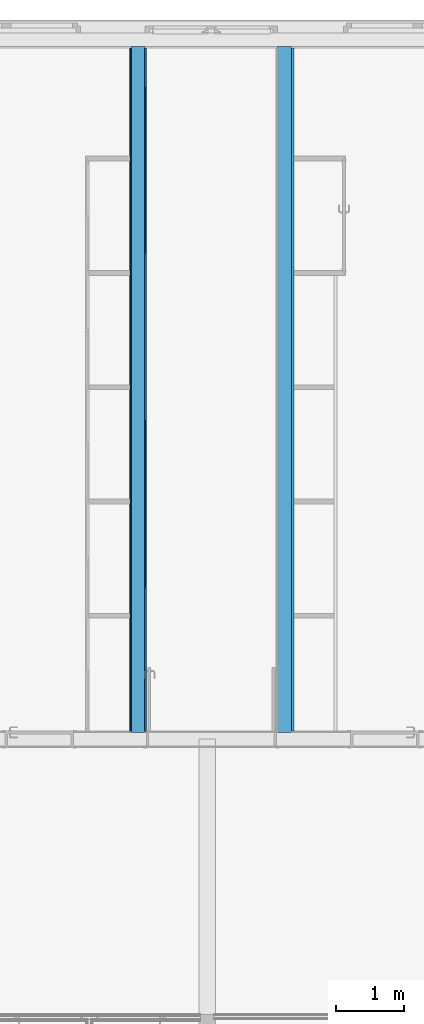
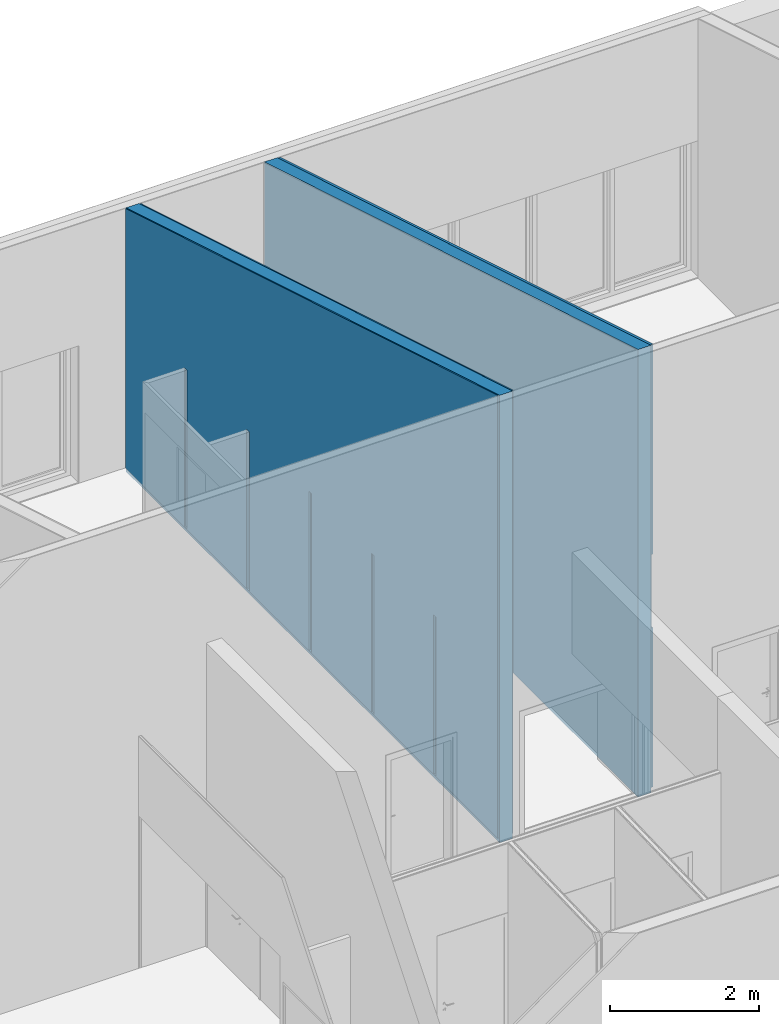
# One storey, part 33 of 34: 5 building element parts, 2 elements without a shape of their own.
"""IFC2X3 building model written with IfcOpenShell, lengths in metres."""

from ifc_helpers import new_model, entity, si_unit, converted_unit, derived_unit, money_unit, direction, frame, origin_with_axes, place, context, subcontext, project, spatial, polyline, outline, extrude, boolean, faceted_brep, material, type_object, element, aggregate, save


model = new_model("IFC2X3")

# Units and contexts
model_context = context("Model", 3, precision=1e-05, world=origin_with_axes(), true_north=direction((0.0, 1.0)))
body_context = subcontext(model_context, "Body", "Model", "MODEL_VIEW")
ifc_project = project(units=[si_unit("LENGTHUNIT", "METRE"), si_unit("AREAUNIT", "SQUARE_METRE"), si_unit("VOLUMEUNIT", "CUBIC_METRE"), converted_unit("PLANEANGLEUNIT", "DEGREE", entity("IfcPlaneAngleMeasure", 0.0174532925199), si_unit("PLANEANGLEUNIT", "RADIAN"), dimensions=[0, 0, 0, 0, 0, 0, 0]), money_unit("CHF"), converted_unit("TIMEUNIT", "Year", entity("IfcTimeMeasure", 31556926.0), si_unit("TIMEUNIT", "SECOND"), dimensions=[0, 0, 1, 0, 0, 0, 0]), si_unit("MASSUNIT", "GRAM", prefix="KILO"), si_unit("THERMODYNAMICTEMPERATUREUNIT", "DEGREE_CELSIUS"), si_unit("LUMINOUSINTENSITYUNIT", "LUMEN"), si_unit("ENERGYUNIT", "JOULE", prefix="MEGA"), derived_unit("THERMALCONDUCTANCEUNIT", [(si_unit("POWERUNIT", "WATT"), 1), (si_unit("LENGTHUNIT", "METRE"), -1), (si_unit("THERMODYNAMICTEMPERATUREUNIT", "KELVIN"), -1)]), derived_unit("SPECIFICHEATCAPACITYUNIT", [(si_unit("ENERGYUNIT", "JOULE"), 1), (si_unit("MASSUNIT", "GRAM", prefix="KILO"), -1), (si_unit("THERMODYNAMICTEMPERATUREUNIT", "KELVIN"), -1)]), derived_unit("MASSDENSITYUNIT", [(si_unit("MASSUNIT", "GRAM", prefix="KILO"), 1), (si_unit("VOLUMEUNIT", "CUBIC_METRE"), -1)])], contexts=[model_context])

# Site, building, storey
site_placement = place(None, origin_with_axes())
site = spatial("IfcSite", under=ifc_project, at=site_placement, Name="Site", CompositionType="ELEMENT")
building_placement = place(site_placement, origin_with_axes())
building = spatial("IfcBuilding", under=site, at=building_placement, Name="Bâtiment", CompositionType="ELEMENT")
storey_placement = place(building_placement, origin_with_axes())
storey = spatial("IfcBuildingStorey", under=building, at=storey_placement, Name="Rez-de-chaussée", CompositionType="ELEMENT", Elevation=0.0)

# Wall, building element parts
wall_type_1 = type_object("IfcWallType", Name="Mur 20cm + enduit 2cm 240", PredefinedType="NOTDEFINED")
wall_1_placement = place(storey_placement, frame((23.3394697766, 25.2201256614, -0.21), z_axis=(0.0, 0.0, 1.0), x_axis=(0.0, -1.0, 0.0)))
wall_1 = element("IfcWall", 1, at=wall_1_placement, inside=storey, type_object=wall_type_1, Name="MUR_EXT-007")
ifc_material_1 = material(Name="Finition int - Enduit plâtre")
building_element_part_1_placement = place(wall_1_placement, origin_with_axes())
building_element_part_1 = element("IfcBuildingElementPart", 2, at=building_element_part_1_placement, material=ifc_material_1, Name="Finition int - Enduit plâtre", context=body_context, shape_type="CSG", body=[
    boolean("DIFFERENCE", boolean("DIFFERENCE", boolean("DIFFERENCE", boolean("DIFFERENCE", boolean("DIFFERENCE", boolean("DIFFERENCE", boolean("DIFFERENCE", boolean("DIFFERENCE", extrude(outline(polyline([(-0.29, 0.1), (10.3401256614, 0.1), (10.3401256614, 0.12), (-0.29, 0.12), (-0.29, 0.1)])), origin_with_axes(), (0.0, 0.0, 1.0), 7.64), faceted_brep([(-0.29, 0.1, 7.64), (-0.29, 0.1, 0.0), (10.3401256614, 0.1, 0.0), (10.3401256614, 0.1, 7.64), (10.1001256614, 0.1, 0.2), (0.12, 0.1, 0.2), (0.12, 0.1, 4.45417566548), (10.1001256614, 0.1, 7.44821336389), (-0.29, 0.12, 7.64), (-0.29, 0.12, 0.0), (10.3401256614, 0.12, 0.0), (10.3401256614, 0.12, 7.64), (10.1001256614, 0.119999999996, 0.2), (0.12, 0.119999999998, 0.2), (0.12, 0.119999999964, 4.45417566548), (10.1001256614, 0.119999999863, 7.44821336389)], [[[0, 1, 2, 3], [4, 5, 6, 7]], [[8, 9, 1, 0]], [[2, 1, 9, 10]], [[3, 2, 10, 11]], [[8, 0, 3, 11]], [[12, 13, 5, 4]], [[13, 14, 6, 5]], [[14, 15, 7, 6]], [[15, 12, 4, 7]], [[11, 10, 9, 8], [12, 15, 14, 13]]])), faceted_brep([(-0.29, -0.1, 7.64), (-0.29, -0.1, 0.0), (10.3401256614, -0.1, 0.0), (10.3401256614, -0.1, 7.64), (10.1201256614, -0.1, 0.13), (0.1, -0.1, 0.13), (0.1, -0.1, 4.44817566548), (0.12, -0.1, 4.45417566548), (10.1001256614, -0.1, 7.44821336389), (10.1201256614, -0.1, 7.45421336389), (-0.29, 0.1, 7.64), (-0.29, 0.1, 0.0), (10.3401256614, 0.1, 0.0), (10.3401256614, 0.1, 7.64), (10.1201256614, 0.1, 0.13), (0.1, 0.1, 0.13), (0.1, 0.1, 4.44817566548), (0.12, 0.1, 4.45417566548), (10.1001256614, 0.1, 7.44821336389), (10.1201256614, 0.1, 7.45421336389)], [[[0, 1, 2, 3], [4, 5, 6, 7, 8, 9]], [[10, 11, 1, 0]], [[2, 1, 11, 12]], [[3, 2, 12, 13]], [[10, 0, 3, 13]], [[14, 15, 5, 4]], [[15, 16, 6, 5]], [[16, 17, 18, 19, 9, 8, 7, 6]], [[19, 14, 4, 9]], [[13, 12, 11, 10], [18, 17, 16, 15, 14, 19]]])), faceted_brep([(8.45012566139, -0.12, 0.21), (8.45012566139, -0.12, 2.81), (8.38012566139, -0.12, 2.81), (8.38012566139, -0.12, 0.21), (8.45012566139, -0.1, 0.21), (8.45012566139, -0.1, 2.81), (8.38012566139, -0.1, 2.81), (8.38012566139, -0.1, 0.21)], [[[0, 1, 2, 3]], [[4, 5, 1, 0]], [[5, 6, 2, 1]], [[6, 7, 3, 2]], [[7, 4, 0, 3]], [[4, 7, 6, 5]]])), faceted_brep([(6.78012566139, -0.12, 0.21), (6.78012566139, -0.12, 2.81), (6.71012566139, -0.12, 2.81), (6.71012566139, -0.12, 0.21), (6.78012566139, -0.1, 0.21), (6.78012566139, -0.1, 2.81), (6.71012566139, -0.1, 2.81), (6.71012566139, -0.1, 0.21)], [[[0, 1, 2, 3]], [[4, 5, 1, 0]], [[5, 6, 2, 1]], [[6, 7, 3, 2]], [[7, 4, 0, 3]], [[4, 7, 6, 5]]])), faceted_brep([(5.11012566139, -0.12, 0.21), (5.11012566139, -0.12, 2.81), (5.04012566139, -0.12, 2.81), (5.04012566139, -0.12, 0.21), (5.11012566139, -0.1, 0.21), (5.11012566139, -0.1, 2.81), (5.04012566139, -0.1, 2.81), (5.04012566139, -0.1, 0.21)], [[[0, 1, 2, 3]], [[4, 5, 1, 0]], [[5, 6, 2, 1]], [[6, 7, 3, 2]], [[7, 4, 0, 3]], [[4, 7, 6, 5]]])), faceted_brep([(3.44012566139, -0.12, 0.21), (3.44012566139, -0.12, 2.81), (3.37012566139, -0.12, 2.81), (3.37012566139, -0.12, 0.21), (3.44012566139, -0.1, 0.21), (3.44012566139, -0.1, 2.81), (3.37012566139, -0.1, 2.81), (3.37012566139, -0.1, 0.21)], [[[0, 1, 2, 3]], [[4, 5, 1, 0]], [[5, 6, 2, 1]], [[6, 7, 3, 2]], [[7, 4, 0, 3]], [[4, 7, 6, 5]]])), faceted_brep([(1.77012566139, -0.12, 0.21), (1.77012566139, -0.12, 2.81), (1.70012566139, -0.12, 2.81), (1.70012566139, -0.12, 0.21), (1.77012566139, -0.1, 0.21), (1.77012566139, -0.1, 2.81), (1.70012566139, -0.1, 2.81), (1.70012566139, -0.1, 0.21)], [[[0, 1, 2, 3]], [[4, 5, 1, 0]], [[5, 6, 2, 1]], [[6, 7, 3, 2]], [[7, 4, 0, 3]], [[4, 7, 6, 5]]])), faceted_brep([(-0.29, -0.12, 7.64), (-0.29, -0.12, 0.0), (10.3401256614, -0.12, 0.0), (10.3401256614, -0.12, 7.64), (10.1001256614, -0.12, 0.2), (0.12, -0.12, 0.2), (0.12, -0.12, 4.45417566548), (10.1001256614, -0.12, 7.44821336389), (-0.29, -0.1, 7.64), (-0.29, -0.1, 0.0), (10.3401256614, -0.1, 0.0), (10.3401256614, -0.1, 7.64), (10.1001256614, -0.1, 0.2), (0.12, -0.1, 0.2), (0.12, -0.1, 4.45417566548), (10.1001256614, -0.1, 7.44821336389)], [[[0, 1, 2, 3], [4, 5, 6, 7]], [[8, 9, 1, 0]], [[2, 1, 9, 10]], [[3, 2, 10, 11]], [[8, 0, 3, 11]], [[12, 13, 5, 4]], [[13, 14, 6, 5]], [[14, 15, 7, 6]], [[15, 12, 4, 7]], [[11, 10, 9, 8], [12, 15, 14, 13]]])),
])
ifc_material_2 = material(Name="Béton armé (Coulé)")
building_element_part_2_placement = place(wall_1_placement, origin_with_axes())
building_element_part_2 = element("IfcBuildingElementPart", 3, at=building_element_part_2_placement, material=ifc_material_2, Name="Béton armé (Coulé)", context=body_context, shape_type="CSG", body=[
    boolean("DIFFERENCE", boolean("DIFFERENCE", boolean("DIFFERENCE", boolean("DIFFERENCE", boolean("DIFFERENCE", boolean("DIFFERENCE", boolean("DIFFERENCE", boolean("DIFFERENCE", extrude(outline(polyline([(-0.29, -0.1), (10.3401256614, -0.1), (10.3401256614, 0.1), (-0.29, 0.1), (-0.29, -0.1)])), origin_with_axes(), (0.0, 0.0, 1.0), 7.64), faceted_brep([(-0.29, 0.1, 7.64), (-0.29, 0.1, 0.0), (10.3401256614, 0.1, 0.0), (10.3401256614, 0.1, 7.64), (10.1001256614, 0.1, 0.2), (0.12, 0.1, 0.2), (0.12, 0.1, 4.45417566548), (10.1001256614, 0.1, 7.44821336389), (-0.29, 0.12, 7.64), (-0.29, 0.12, 0.0), (10.3401256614, 0.12, 0.0), (10.3401256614, 0.12, 7.64), (10.1001256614, 0.119999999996, 0.2), (0.12, 0.119999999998, 0.2), (0.12, 0.119999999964, 4.45417566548), (10.1001256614, 0.119999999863, 7.44821336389)], [[[0, 1, 2, 3], [4, 5, 6, 7]], [[8, 9, 1, 0]], [[2, 1, 9, 10]], [[3, 2, 10, 11]], [[8, 0, 3, 11]], [[12, 13, 5, 4]], [[13, 14, 6, 5]], [[14, 15, 7, 6]], [[15, 12, 4, 7]], [[11, 10, 9, 8], [12, 15, 14, 13]]])), faceted_brep([(-0.29, -0.1, 7.64), (-0.29, -0.1, 0.0), (10.3401256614, -0.1, 0.0), (10.3401256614, -0.1, 7.64), (10.1201256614, -0.1, 0.13), (0.1, -0.1, 0.13), (0.1, -0.1, 4.44817566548), (0.12, -0.1, 4.45417566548), (10.1001256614, -0.1, 7.44821336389), (10.1201256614, -0.1, 7.45421336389), (-0.29, 0.1, 7.64), (-0.29, 0.1, 0.0), (10.3401256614, 0.1, 0.0), (10.3401256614, 0.1, 7.64), (10.1201256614, 0.1, 0.13), (0.1, 0.1, 0.13), (0.1, 0.1, 4.44817566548), (0.12, 0.1, 4.45417566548), (10.1001256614, 0.1, 7.44821336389), (10.1201256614, 0.1, 7.45421336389)], [[[0, 1, 2, 3], [4, 5, 6, 7, 8, 9]], [[10, 11, 1, 0]], [[2, 1, 11, 12]], [[3, 2, 12, 13]], [[10, 0, 3, 13]], [[14, 15, 5, 4]], [[15, 16, 6, 5]], [[16, 17, 18, 19, 9, 8, 7, 6]], [[19, 14, 4, 9]], [[13, 12, 11, 10], [18, 17, 16, 15, 14, 19]]])), faceted_brep([(8.45012566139, -0.12, 0.21), (8.45012566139, -0.12, 2.81), (8.38012566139, -0.12, 2.81), (8.38012566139, -0.12, 0.21), (8.45012566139, -0.1, 0.21), (8.45012566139, -0.1, 2.81), (8.38012566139, -0.1, 2.81), (8.38012566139, -0.1, 0.21)], [[[0, 1, 2, 3]], [[4, 5, 1, 0]], [[5, 6, 2, 1]], [[6, 7, 3, 2]], [[7, 4, 0, 3]], [[4, 7, 6, 5]]])), faceted_brep([(6.78012566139, -0.12, 0.21), (6.78012566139, -0.12, 2.81), (6.71012566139, -0.12, 2.81), (6.71012566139, -0.12, 0.21), (6.78012566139, -0.1, 0.21), (6.78012566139, -0.1, 2.81), (6.71012566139, -0.1, 2.81), (6.71012566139, -0.1, 0.21)], [[[0, 1, 2, 3]], [[4, 5, 1, 0]], [[5, 6, 2, 1]], [[6, 7, 3, 2]], [[7, 4, 0, 3]], [[4, 7, 6, 5]]])), faceted_brep([(5.11012566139, -0.12, 0.21), (5.11012566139, -0.12, 2.81), (5.04012566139, -0.12, 2.81), (5.04012566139, -0.12, 0.21), (5.11012566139, -0.1, 0.21), (5.11012566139, -0.1, 2.81), (5.04012566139, -0.1, 2.81), (5.04012566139, -0.1, 0.21)], [[[0, 1, 2, 3]], [[4, 5, 1, 0]], [[5, 6, 2, 1]], [[6, 7, 3, 2]], [[7, 4, 0, 3]], [[4, 7, 6, 5]]])), faceted_brep([(3.44012566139, -0.12, 0.21), (3.44012566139, -0.12, 2.81), (3.37012566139, -0.12, 2.81), (3.37012566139, -0.12, 0.21), (3.44012566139, -0.1, 0.21), (3.44012566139, -0.1, 2.81), (3.37012566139, -0.1, 2.81), (3.37012566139, -0.1, 0.21)], [[[0, 1, 2, 3]], [[4, 5, 1, 0]], [[5, 6, 2, 1]], [[6, 7, 3, 2]], [[7, 4, 0, 3]], [[4, 7, 6, 5]]])), faceted_brep([(1.77012566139, -0.12, 0.21), (1.77012566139, -0.12, 2.81), (1.70012566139, -0.12, 2.81), (1.70012566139, -0.12, 0.21), (1.77012566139, -0.1, 0.21), (1.77012566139, -0.1, 2.81), (1.70012566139, -0.1, 2.81), (1.70012566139, -0.1, 0.21)], [[[0, 1, 2, 3]], [[4, 5, 1, 0]], [[5, 6, 2, 1]], [[6, 7, 3, 2]], [[7, 4, 0, 3]], [[4, 7, 6, 5]]])), faceted_brep([(-0.29, -0.12, 7.64), (-0.29, -0.12, 0.0), (10.3401256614, -0.12, 0.0), (10.3401256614, -0.12, 7.64), (10.1001256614, -0.12, 0.2), (0.12, -0.12, 0.2), (0.12, -0.12, 4.45417566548), (10.1001256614, -0.12, 7.44821336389), (-0.29, -0.1, 7.64), (-0.29, -0.1, 0.0), (10.3401256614, -0.1, 0.0), (10.3401256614, -0.1, 7.64), (10.1001256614, -0.1, 0.2), (0.12, -0.1, 0.2), (0.12, -0.1, 4.45417566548), (10.1001256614, -0.1, 7.44821336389)], [[[0, 1, 2, 3], [4, 5, 6, 7]], [[8, 9, 1, 0]], [[2, 1, 9, 10]], [[3, 2, 10, 11]], [[8, 0, 3, 11]], [[12, 13, 5, 4]], [[13, 14, 6, 5]], [[14, 15, 7, 6]], [[15, 12, 4, 7]], [[11, 10, 9, 8], [12, 15, 14, 13]]])),
])
building_element_part_3_placement = place(wall_1_placement, origin_with_axes())
building_element_part_3 = element("IfcBuildingElementPart", 4, at=building_element_part_3_placement, material=ifc_material_1, Name="Finition int - Enduit plâtre", context=body_context, shape_type="CSG", body=[
    boolean("DIFFERENCE", boolean("DIFFERENCE", boolean("DIFFERENCE", boolean("DIFFERENCE", boolean("DIFFERENCE", boolean("DIFFERENCE", boolean("DIFFERENCE", boolean("DIFFERENCE", extrude(outline(polyline([(-0.29, -0.12), (10.3401256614, -0.12), (10.3401256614, -0.1), (-0.29, -0.1), (-0.29, -0.12)])), origin_with_axes(), (0.0, 0.0, 1.0), 7.64), faceted_brep([(-0.29, 0.1, 7.64), (-0.29, 0.1, 0.0), (10.3401256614, 0.1, 0.0), (10.3401256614, 0.1, 7.64), (10.1001256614, 0.1, 0.2), (0.12, 0.1, 0.2), (0.12, 0.1, 4.45417566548), (10.1001256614, 0.1, 7.44821336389), (-0.29, 0.12, 7.64), (-0.29, 0.12, 0.0), (10.3401256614, 0.12, 0.0), (10.3401256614, 0.12, 7.64), (10.1001256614, 0.119999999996, 0.2), (0.12, 0.119999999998, 0.2), (0.12, 0.119999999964, 4.45417566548), (10.1001256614, 0.119999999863, 7.44821336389)], [[[0, 1, 2, 3], [4, 5, 6, 7]], [[8, 9, 1, 0]], [[2, 1, 9, 10]], [[3, 2, 10, 11]], [[8, 0, 3, 11]], [[12, 13, 5, 4]], [[13, 14, 6, 5]], [[14, 15, 7, 6]], [[15, 12, 4, 7]], [[11, 10, 9, 8], [12, 15, 14, 13]]])), faceted_brep([(-0.29, -0.1, 7.64), (-0.29, -0.1, 0.0), (10.3401256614, -0.1, 0.0), (10.3401256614, -0.1, 7.64), (10.1201256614, -0.1, 0.13), (0.1, -0.1, 0.13), (0.1, -0.1, 4.44817566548), (0.12, -0.1, 4.45417566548), (10.1001256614, -0.1, 7.44821336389), (10.1201256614, -0.1, 7.45421336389), (-0.29, 0.1, 7.64), (-0.29, 0.1, 0.0), (10.3401256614, 0.1, 0.0), (10.3401256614, 0.1, 7.64), (10.1201256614, 0.1, 0.13), (0.1, 0.1, 0.13), (0.1, 0.1, 4.44817566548), (0.12, 0.1, 4.45417566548), (10.1001256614, 0.1, 7.44821336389), (10.1201256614, 0.1, 7.45421336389)], [[[0, 1, 2, 3], [4, 5, 6, 7, 8, 9]], [[10, 11, 1, 0]], [[2, 1, 11, 12]], [[3, 2, 12, 13]], [[10, 0, 3, 13]], [[14, 15, 5, 4]], [[15, 16, 6, 5]], [[16, 17, 18, 19, 9, 8, 7, 6]], [[19, 14, 4, 9]], [[13, 12, 11, 10], [18, 17, 16, 15, 14, 19]]])), faceted_brep([(8.45012566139, -0.12, 0.21), (8.45012566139, -0.12, 2.81), (8.38012566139, -0.12, 2.81), (8.38012566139, -0.12, 0.21), (8.45012566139, -0.1, 0.21), (8.45012566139, -0.1, 2.81), (8.38012566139, -0.1, 2.81), (8.38012566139, -0.1, 0.21)], [[[0, 1, 2, 3]], [[4, 5, 1, 0]], [[5, 6, 2, 1]], [[6, 7, 3, 2]], [[7, 4, 0, 3]], [[4, 7, 6, 5]]])), faceted_brep([(6.78012566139, -0.12, 0.21), (6.78012566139, -0.12, 2.81), (6.71012566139, -0.12, 2.81), (6.71012566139, -0.12, 0.21), (6.78012566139, -0.1, 0.21), (6.78012566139, -0.1, 2.81), (6.71012566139, -0.1, 2.81), (6.71012566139, -0.1, 0.21)], [[[0, 1, 2, 3]], [[4, 5, 1, 0]], [[5, 6, 2, 1]], [[6, 7, 3, 2]], [[7, 4, 0, 3]], [[4, 7, 6, 5]]])), faceted_brep([(5.11012566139, -0.12, 0.21), (5.11012566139, -0.12, 2.81), (5.04012566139, -0.12, 2.81), (5.04012566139, -0.12, 0.21), (5.11012566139, -0.1, 0.21), (5.11012566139, -0.1, 2.81), (5.04012566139, -0.1, 2.81), (5.04012566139, -0.1, 0.21)], [[[0, 1, 2, 3]], [[4, 5, 1, 0]], [[5, 6, 2, 1]], [[6, 7, 3, 2]], [[7, 4, 0, 3]], [[4, 7, 6, 5]]])), faceted_brep([(3.44012566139, -0.12, 0.21), (3.44012566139, -0.12, 2.81), (3.37012566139, -0.12, 2.81), (3.37012566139, -0.12, 0.21), (3.44012566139, -0.1, 0.21), (3.44012566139, -0.1, 2.81), (3.37012566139, -0.1, 2.81), (3.37012566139, -0.1, 0.21)], [[[0, 1, 2, 3]], [[4, 5, 1, 0]], [[5, 6, 2, 1]], [[6, 7, 3, 2]], [[7, 4, 0, 3]], [[4, 7, 6, 5]]])), faceted_brep([(1.77012566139, -0.12, 0.21), (1.77012566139, -0.12, 2.81), (1.70012566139, -0.12, 2.81), (1.70012566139, -0.12, 0.21), (1.77012566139, -0.1, 0.21), (1.77012566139, -0.1, 2.81), (1.70012566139, -0.1, 2.81), (1.70012566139, -0.1, 0.21)], [[[0, 1, 2, 3]], [[4, 5, 1, 0]], [[5, 6, 2, 1]], [[6, 7, 3, 2]], [[7, 4, 0, 3]], [[4, 7, 6, 5]]])), faceted_brep([(-0.29, -0.12, 7.64), (-0.29, -0.12, 0.0), (10.3401256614, -0.12, 0.0), (10.3401256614, -0.12, 7.64), (10.1001256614, -0.12, 0.2), (0.12, -0.12, 0.2), (0.12, -0.12, 4.45417566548), (10.1001256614, -0.12, 7.44821336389), (-0.29, -0.1, 7.64), (-0.29, -0.1, 0.0), (10.3401256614, -0.1, 0.0), (10.3401256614, -0.1, 7.64), (10.1001256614, -0.1, 0.2), (0.12, -0.1, 0.2), (0.12, -0.1, 4.45417566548), (10.1001256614, -0.1, 7.44821336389)], [[[0, 1, 2, 3], [4, 5, 6, 7]], [[8, 9, 1, 0]], [[2, 1, 9, 10]], [[3, 2, 10, 11]], [[8, 0, 3, 11]], [[12, 13, 5, 4]], [[13, 14, 6, 5]], [[14, 15, 7, 6]], [[15, 12, 4, 7]], [[11, 10, 9, 8], [12, 15, 14, 13]]])),
])
aggregate(wall_1, [building_element_part_1, building_element_part_2, building_element_part_3])

wall_type_2 = type_object("IfcWallType", Name="Mur 20cm + enduit 2cm copie 260", PredefinedType="NOTDEFINED")
wall_2_placement = place(storey_placement, frame((25.3594697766, 25.2201256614, -0.21), z_axis=(0.0, 0.0, 1.0), x_axis=(0.0, -1.0, 0.0)))
wall_2 = element("IfcWall", 5, at=wall_2_placement, inside=storey, type_object=wall_type_2, Name="MUR_EXT-007")
building_element_part_4_placement = place(wall_2_placement, origin_with_axes())
building_element_part_4 = element("IfcBuildingElementPart", 6, at=building_element_part_4_placement, material=ifc_material_1, Name="Finition int - Enduit plâtre", context=body_context, shape_type="CSG", body=[
    boolean("DIFFERENCE", boolean("DIFFERENCE", boolean("DIFFERENCE", boolean("DIFFERENCE", extrude(outline(polyline([(-0.29, 0.22), (10.3401256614, 0.22), (10.3401256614, 0.26), (-0.29, 0.26), (-0.29, 0.22)])), origin_with_axes(), (0.0, 0.0, 1.0), 7.64), faceted_brep([(8.45012566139, 0.22, 0.21), (8.45012566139, 0.22, 2.81), (8.38012566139, 0.22, 2.81), (8.38012566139, 0.22, 0.21), (8.45012566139, 0.259999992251, 0.21), (8.45012566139, 0.259999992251, 2.81), (8.45012566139, 0.24, 2.81), (8.38012566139, 0.24, 2.81), (8.38012566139, 0.259999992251, 2.81), (8.38012566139, 0.259999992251, 0.21), (10.3401256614, 0.26, 7.64), (10.3401256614, 0.26, 0.0), (-0.29, 0.26, 0.0), (-0.29, 0.26, 7.64), (1.70012566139, 0.259999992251, 0.21), (1.70012566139, 0.259999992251, 2.81), (0.12, 0.259999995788, 2.81), (0.12, 0.2599999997, 0.2), (10.1001256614, 0.259999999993, 0.2), (10.1001256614, 0.259999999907, 2.81), (6.78012566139, 0.259999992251, 2.81), (6.78012566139, 0.259999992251, 0.21), (6.71012566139, 0.259999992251, 0.21), (6.71012566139, 0.259999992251, 2.81), (5.11012566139, 0.259999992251, 2.81), (5.11012566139, 0.259999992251, 0.21), (5.04012566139, 0.259999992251, 0.21), (5.04012566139, 0.259999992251, 2.81), (3.44012566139, 0.259999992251, 2.81), (3.44012566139, 0.259999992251, 0.21), (3.37012566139, 0.259999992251, 0.21), (3.37012566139, 0.259999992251, 2.81), (1.77012566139, 0.259999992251, 2.81), (1.77012566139, 0.259999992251, 0.21), (10.1001256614, 0.259999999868, 4.01), (10.1001256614, 0.259999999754, 7.44821336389), (0.12, 0.259999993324, 4.45417566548), (0.12, 0.25999999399, 4.01), (10.1001256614, 0.24, 2.81), (0.12, 0.24, 2.81), (1.70012566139, 0.24, 2.81), (1.77012566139, 0.24, 2.81), (3.37012566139, 0.24, 2.81), (3.44012566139, 0.24, 2.81), (5.04012566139, 0.24, 2.81), (5.11012566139, 0.24, 2.81), (6.71012566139, 0.24, 2.81), (6.78012566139, 0.24, 2.81), (10.1001256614, 0.24, 4.01), (0.12, 0.24, 4.01), (10.3401256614, 0.22, 7.64), (10.3401256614, 0.22, 0.0), (-0.29, 0.22, 0.0), (-0.29, 0.22, 7.64), (1.70012566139, 0.22, 0.21), (1.70012566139, 0.22, 2.81), (0.12, 0.22, 4.45417566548), (0.12, 0.22, 0.2), (10.1001256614, 0.22, 0.2), (10.1001256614, 0.22, 7.44821336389), (6.78012566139, 0.22, 2.81), (6.78012566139, 0.22, 0.21), (6.71012566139, 0.22, 0.21), (6.71012566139, 0.22, 2.81), (5.11012566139, 0.22, 2.81), (5.11012566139, 0.22, 0.21), (5.04012566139, 0.22, 0.21), (5.04012566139, 0.22, 2.81), (3.44012566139, 0.22, 2.81), (3.44012566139, 0.22, 0.21), (3.37012566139, 0.22, 0.21), (3.37012566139, 0.22, 2.81), (1.77012566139, 0.22, 2.81), (1.77012566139, 0.22, 0.21)], [[[0, 1, 2, 3]], [[4, 5, 6, 1, 0]], [[2, 1, 6, 7]], [[8, 9, 3, 2, 7]], [[9, 4, 0, 3]], [[10, 11, 12, 13], [14, 15, 16, 17, 18, 19, 5, 4, 9, 8, 20, 21, 22, 23, 24, 25, 26, 27, 28, 29, 30, 31, 32, 33], [34, 35, 36, 37]], [[5, 19, 38, 6]], [[39, 40, 41, 42, 43, 44, 45, 46, 47, 7, 6, 38, 48, 49]], [[20, 8, 7, 47]], [[50, 51, 11, 10]], [[51, 52, 12, 11]], [[13, 12, 52, 53]], [[13, 53, 50, 10]], [[15, 14, 54, 55, 40]], [[16, 15, 40, 39]], [[37, 36, 56, 57, 17, 16, 39, 49]], [[18, 17, 57, 58]], [[35, 34, 48, 38, 19, 18, 58, 59]], [[21, 20, 47, 60, 61]], [[22, 21, 61, 62]], [[23, 22, 62, 63, 46]], [[24, 23, 46, 45]], [[25, 24, 45, 64, 65]], [[26, 25, 65, 66]], [[27, 26, 66, 67, 44]], [[28, 27, 44, 43]], [[29, 28, 43, 68, 69]], [[30, 29, 69, 70]], [[31, 30, 70, 71, 42]], [[32, 31, 42, 41]], [[33, 32, 41, 72, 73]], [[14, 33, 73, 54]], [[36, 35, 59, 56]], [[34, 37, 49, 48]], [[55, 72, 41, 40]], [[71, 68, 43, 42]], [[67, 64, 45, 44]], [[63, 60, 47, 46]], [[53, 52, 51, 50], [58, 57, 56, 59]], [[73, 72, 55, 54]], [[61, 60, 63, 62]], [[65, 64, 67, 66]], [[69, 68, 71, 70]]])), faceted_brep([(-0.29, 0.02, 7.64), (-0.29, 0.02, 0.0), (10.3401256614, 0.02, 0.0), (10.3401256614, 0.02, 7.64), (10.1201256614, 0.02, 0.13), (0.1, 0.02, 0.13), (0.1, 0.02, 4.44817566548), (0.12, 0.02, 4.45417566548), (10.1001256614, 0.02, 7.44821336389), (10.1201256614, 0.02, 7.45421336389), (-0.29, 0.22, 7.64), (-0.29, 0.22, 0.0), (10.3401256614, 0.22, 0.0), (10.3401256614, 0.22, 7.64), (10.1201256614, 0.22, 0.13), (0.1, 0.22, 0.13), (0.1, 0.22, 4.44817566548), (0.12, 0.22, 4.45417566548), (10.1001256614, 0.22, 7.44821336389), (10.1201256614, 0.22, 7.45421336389)], [[[0, 1, 2, 3], [4, 5, 6, 7, 8, 9]], [[10, 11, 1, 0]], [[2, 1, 11, 12]], [[3, 2, 12, 13]], [[10, 0, 3, 13]], [[14, 15, 5, 4]], [[15, 16, 6, 5]], [[16, 17, 18, 19, 9, 8, 7, 6]], [[19, 14, 4, 9]], [[13, 12, 11, 10], [18, 17, 16, 15, 14, 19]]])), faceted_brep([(8.43012566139, 0.0, 2.81), (8.43012566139, 0.0, 3.21), (8.38012566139, 0.0, 3.21), (8.38012566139, 0.0, 2.81), (8.43012566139, 0.02, 2.81), (8.43012566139, 0.02, 3.21), (8.38012566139, 0.02, 3.21), (8.38012566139, 0.02, 2.81)], [[[0, 1, 2, 3]], [[4, 5, 1, 0]], [[5, 6, 2, 1]], [[6, 7, 3, 2]], [[7, 4, 0, 3]], [[4, 7, 6, 5]]])), faceted_brep([(-0.29, 0.0, 7.64), (-0.29, 0.0, 0.0), (10.3401256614, 0.0, 0.0), (10.3401256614, 0.0, 7.64), (10.1001256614, 0.0, 0.2), (0.12, 0.0, 0.2), (0.12, 0.0, 4.45417566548), (10.1001256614, 0.0, 7.44821336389), (-0.29, 0.02, 7.64), (-0.29, 0.02, 0.0), (10.3401256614, 0.02, 0.0), (10.3401256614, 0.02, 7.64), (10.1001256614, 0.02, 0.2), (0.12, 0.02, 0.2), (0.12, 0.02, 4.45417566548), (10.1001256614, 0.02, 7.44821336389)], [[[0, 1, 2, 3], [4, 5, 6, 7]], [[8, 9, 1, 0]], [[2, 1, 9, 10]], [[3, 2, 10, 11]], [[8, 0, 3, 11]], [[12, 13, 5, 4]], [[13, 14, 6, 5]], [[14, 15, 7, 6]], [[15, 12, 4, 7]], [[11, 10, 9, 8], [12, 15, 14, 13]]])),
])
building_element_part_5_placement = place(wall_2_placement, origin_with_axes())
building_element_part_5 = element("IfcBuildingElementPart", 7, at=building_element_part_5_placement, material=ifc_material_2, Name="Béton armé (Coulé)", context=body_context, shape_type="CSG", body=[
    boolean("DIFFERENCE", boolean("DIFFERENCE", boolean("DIFFERENCE", boolean("DIFFERENCE", extrude(outline(polyline([(-0.29, 0.02), (10.3401256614, 0.02), (10.3401256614, 0.22), (-0.29, 0.22), (-0.29, 0.02)])), origin_with_axes(), (0.0, 0.0, 1.0), 7.64), faceted_brep([(8.45012566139, 0.22, 0.21), (8.45012566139, 0.22, 2.81), (8.38012566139, 0.22, 2.81), (8.38012566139, 0.22, 0.21), (8.45012566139, 0.259999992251, 0.21), (8.45012566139, 0.259999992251, 2.81), (8.45012566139, 0.24, 2.81), (8.38012566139, 0.24, 2.81), (8.38012566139, 0.259999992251, 2.81), (8.38012566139, 0.259999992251, 0.21), (10.3401256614, 0.26, 7.64), (10.3401256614, 0.26, 0.0), (-0.29, 0.26, 0.0), (-0.29, 0.26, 7.64), (1.70012566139, 0.259999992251, 0.21), (1.70012566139, 0.259999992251, 2.81), (0.12, 0.259999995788, 2.81), (0.12, 0.2599999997, 0.2), (10.1001256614, 0.259999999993, 0.2), (10.1001256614, 0.259999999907, 2.81), (6.78012566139, 0.259999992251, 2.81), (6.78012566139, 0.259999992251, 0.21), (6.71012566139, 0.259999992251, 0.21), (6.71012566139, 0.259999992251, 2.81), (5.11012566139, 0.259999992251, 2.81), (5.11012566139, 0.259999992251, 0.21), (5.04012566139, 0.259999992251, 0.21), (5.04012566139, 0.259999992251, 2.81), (3.44012566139, 0.259999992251, 2.81), (3.44012566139, 0.259999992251, 0.21), (3.37012566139, 0.259999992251, 0.21), (3.37012566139, 0.259999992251, 2.81), (1.77012566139, 0.259999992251, 2.81), (1.77012566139, 0.259999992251, 0.21), (10.1001256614, 0.259999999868, 4.01), (10.1001256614, 0.259999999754, 7.44821336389), (0.12, 0.259999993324, 4.45417566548), (0.12, 0.25999999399, 4.01), (10.1001256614, 0.24, 2.81), (0.12, 0.24, 2.81), (1.70012566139, 0.24, 2.81), (1.77012566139, 0.24, 2.81), (3.37012566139, 0.24, 2.81), (3.44012566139, 0.24, 2.81), (5.04012566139, 0.24, 2.81), (5.11012566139, 0.24, 2.81), (6.71012566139, 0.24, 2.81), (6.78012566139, 0.24, 2.81), (10.1001256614, 0.24, 4.01), (0.12, 0.24, 4.01), (10.3401256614, 0.22, 7.64), (10.3401256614, 0.22, 0.0), (-0.29, 0.22, 0.0), (-0.29, 0.22, 7.64), (1.70012566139, 0.22, 0.21), (1.70012566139, 0.22, 2.81), (0.12, 0.22, 4.45417566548), (0.12, 0.22, 0.2), (10.1001256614, 0.22, 0.2), (10.1001256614, 0.22, 7.44821336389), (6.78012566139, 0.22, 2.81), (6.78012566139, 0.22, 0.21), (6.71012566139, 0.22, 0.21), (6.71012566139, 0.22, 2.81), (5.11012566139, 0.22, 2.81), (5.11012566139, 0.22, 0.21), (5.04012566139, 0.22, 0.21), (5.04012566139, 0.22, 2.81), (3.44012566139, 0.22, 2.81), (3.44012566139, 0.22, 0.21), (3.37012566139, 0.22, 0.21), (3.37012566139, 0.22, 2.81), (1.77012566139, 0.22, 2.81), (1.77012566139, 0.22, 0.21)], [[[0, 1, 2, 3]], [[4, 5, 6, 1, 0]], [[2, 1, 6, 7]], [[8, 9, 3, 2, 7]], [[9, 4, 0, 3]], [[10, 11, 12, 13], [14, 15, 16, 17, 18, 19, 5, 4, 9, 8, 20, 21, 22, 23, 24, 25, 26, 27, 28, 29, 30, 31, 32, 33], [34, 35, 36, 37]], [[5, 19, 38, 6]], [[39, 40, 41, 42, 43, 44, 45, 46, 47, 7, 6, 38, 48, 49]], [[20, 8, 7, 47]], [[50, 51, 11, 10]], [[51, 52, 12, 11]], [[13, 12, 52, 53]], [[13, 53, 50, 10]], [[15, 14, 54, 55, 40]], [[16, 15, 40, 39]], [[37, 36, 56, 57, 17, 16, 39, 49]], [[18, 17, 57, 58]], [[35, 34, 48, 38, 19, 18, 58, 59]], [[21, 20, 47, 60, 61]], [[22, 21, 61, 62]], [[23, 22, 62, 63, 46]], [[24, 23, 46, 45]], [[25, 24, 45, 64, 65]], [[26, 25, 65, 66]], [[27, 26, 66, 67, 44]], [[28, 27, 44, 43]], [[29, 28, 43, 68, 69]], [[30, 29, 69, 70]], [[31, 30, 70, 71, 42]], [[32, 31, 42, 41]], [[33, 32, 41, 72, 73]], [[14, 33, 73, 54]], [[36, 35, 59, 56]], [[34, 37, 49, 48]], [[55, 72, 41, 40]], [[71, 68, 43, 42]], [[67, 64, 45, 44]], [[63, 60, 47, 46]], [[53, 52, 51, 50], [58, 57, 56, 59]], [[73, 72, 55, 54]], [[61, 60, 63, 62]], [[65, 64, 67, 66]], [[69, 68, 71, 70]]])), faceted_brep([(-0.29, 0.02, 7.64), (-0.29, 0.02, 0.0), (10.3401256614, 0.02, 0.0), (10.3401256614, 0.02, 7.64), (10.1201256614, 0.02, 0.13), (0.1, 0.02, 0.13), (0.1, 0.02, 4.44817566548), (0.12, 0.02, 4.45417566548), (10.1001256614, 0.02, 7.44821336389), (10.1201256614, 0.02, 7.45421336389), (-0.29, 0.22, 7.64), (-0.29, 0.22, 0.0), (10.3401256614, 0.22, 0.0), (10.3401256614, 0.22, 7.64), (10.1201256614, 0.22, 0.13), (0.1, 0.22, 0.13), (0.1, 0.22, 4.44817566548), (0.12, 0.22, 4.45417566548), (10.1001256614, 0.22, 7.44821336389), (10.1201256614, 0.22, 7.45421336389)], [[[0, 1, 2, 3], [4, 5, 6, 7, 8, 9]], [[10, 11, 1, 0]], [[2, 1, 11, 12]], [[3, 2, 12, 13]], [[10, 0, 3, 13]], [[14, 15, 5, 4]], [[15, 16, 6, 5]], [[16, 17, 18, 19, 9, 8, 7, 6]], [[19, 14, 4, 9]], [[13, 12, 11, 10], [18, 17, 16, 15, 14, 19]]])), faceted_brep([(8.43012566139, 0.0, 2.81), (8.43012566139, 0.0, 3.21), (8.38012566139, 0.0, 3.21), (8.38012566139, 0.0, 2.81), (8.43012566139, 0.02, 2.81), (8.43012566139, 0.02, 3.21), (8.38012566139, 0.02, 3.21), (8.38012566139, 0.02, 2.81)], [[[0, 1, 2, 3]], [[4, 5, 1, 0]], [[5, 6, 2, 1]], [[6, 7, 3, 2]], [[7, 4, 0, 3]], [[4, 7, 6, 5]]])), faceted_brep([(-0.29, 0.0, 7.64), (-0.29, 0.0, 0.0), (10.3401256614, 0.0, 0.0), (10.3401256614, 0.0, 7.64), (10.1001256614, 0.0, 0.2), (0.12, 0.0, 0.2), (0.12, 0.0, 4.45417566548), (10.1001256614, 0.0, 7.44821336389), (-0.29, 0.02, 7.64), (-0.29, 0.02, 0.0), (10.3401256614, 0.02, 0.0), (10.3401256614, 0.02, 7.64), (10.1001256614, 0.02, 0.2), (0.12, 0.02, 0.2), (0.12, 0.02, 4.45417566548), (10.1001256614, 0.02, 7.44821336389)], [[[0, 1, 2, 3], [4, 5, 6, 7]], [[8, 9, 1, 0]], [[2, 1, 9, 10]], [[3, 2, 10, 11]], [[8, 0, 3, 11]], [[12, 13, 5, 4]], [[13, 14, 6, 5]], [[14, 15, 7, 6]], [[15, 12, 4, 7]], [[11, 10, 9, 8], [12, 15, 14, 13]]])),
])
aggregate(wall_2, [building_element_part_4, building_element_part_5])

save(model, "model.ifc")
